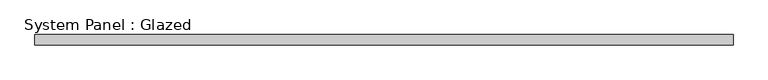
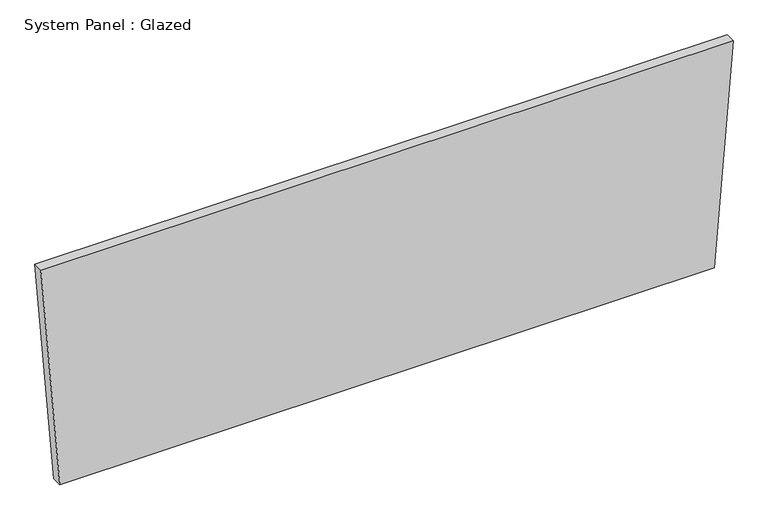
"""IFC4 building model written with IfcOpenShell, lengths in millimetres: plate geometry, System Panel : Glazed."""

from ifc_helpers import new_model, si_unit, frame, origin, place, context, project, spatial, polyline, outline, extrude, source, transform, mapped, element, save


def system_panel_glazed_33c7ebbf(model_context):
    return source(origin(), model_context, "Body", "SweptSolid", [
        extrude(outline(polyline([(0.0, -815.82234), (0.0, 815.82234), (582.2023947, 863.0711364), (582.2023947, -863.0711364), (0.0, -815.82234)])), frame((0.0, -44.45, 0.0), z_axis=(0.0, 1.0, 0.0), x_axis=(0.0, 0.0, 1.0)), (0.0, 0.0, 1.0), 25.4),
    ])


if __name__ == "__main__":
    model = new_model("IFC4")
    model_context = context("Model", 3, world=origin())
    ifc_project = project(units=[si_unit("LENGTHUNIT", "METRE", prefix="MILLI")], contexts=[model_context])
    site = spatial("IfcSite", under=ifc_project)
    building = spatial("IfcBuilding", under=site)
    placement = place(None, origin())
    system_panel_glazed_shape = system_panel_glazed_33c7ebbf(model_context)
    element("IfcPlate", 1, ObjectType="System Panel : Glazed", at=placement, inside=building, context=model_context, shape_type="MappedRepresentation", body=[
        mapped(system_panel_glazed_shape, transform((0.0, 0.0, 0.0), x_axis=(1.0, 0.0, 0.0), y_axis=(0.0, 1.0, 0.0), z_axis=(0.0, 0.0, 1.0))),
    ])
    save(model, "model.ifc")
